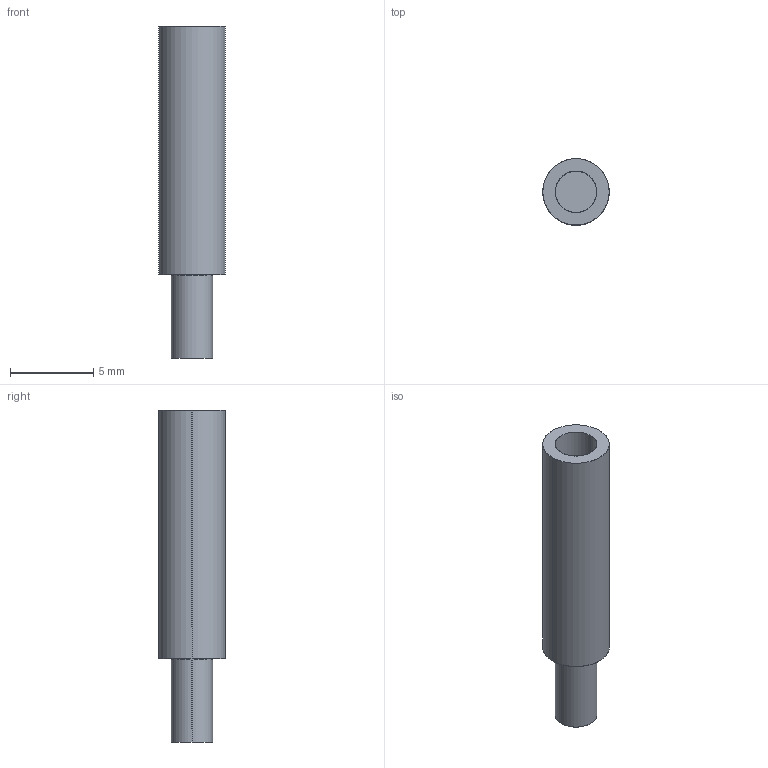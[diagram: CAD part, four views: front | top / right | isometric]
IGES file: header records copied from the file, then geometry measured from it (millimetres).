
Start section: SolidWorks IGES file using analytic representation for surfaces
Global section: file name: C:\Users\panasonic\Desktop\catalog\3d\tr-j102\tr-j102.IGS; native system: SolidWorks 2014; preprocessor: SolidWorks 2014; author: C0909; date: 161007.142432; units: millimetre
Bounding box: 4 x 4 x 20 mm (x, y, z)
Surface area: 307.9 mm2 (no closed solid volume)
Topology: 0 solids, 0 shells, 10 faces, 216 edges, 216 vertices
Faces by surface type: revolution 6, bspline 4
